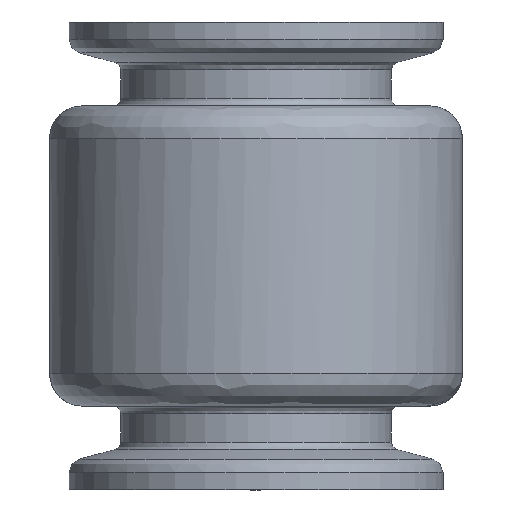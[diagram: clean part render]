
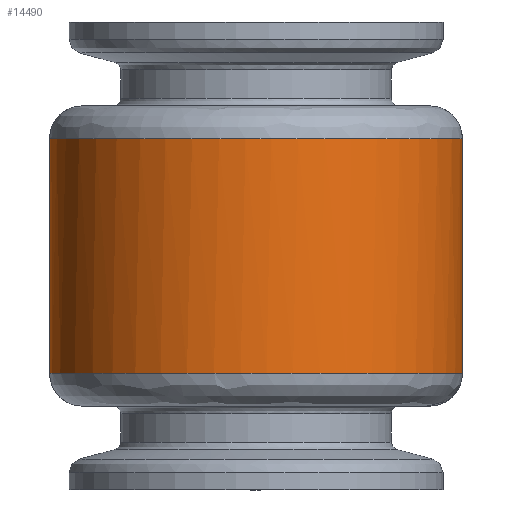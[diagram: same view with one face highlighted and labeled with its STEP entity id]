
A CAD part, front view. The second image highlights one B-rep face of the part: STEP entity #14490.
In plain terms, the highlighted free-form (B-spline) face has degree [2, 1] with [5, 2] control points.
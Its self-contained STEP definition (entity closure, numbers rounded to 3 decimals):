
#11141=CARTESIAN_POINT('V116',(-12.5,0.,
   22.));
#11142=VERTEX_POINT('V116',#11141);
#11221=CARTESIAN_POINT('V114',(-12.5,0.,
   -22.));
#11222=VERTEX_POINT('V114',#11221);
#11254=CARTESIAN_POINT('E185',(-12.5,0.,
   22.));
#11255=CARTESIAN_POINT('E185',(-12.5,
   -22.,22.));
#11256=CARTESIAN_POINT('E185',(-12.5,
   -22.,0.));
#11257=CARTESIAN_POINT('E185',(-12.5,
   -22.,-22.));
#11258=CARTESIAN_POINT('E185',(-12.5,0.,
   -22.));
#11266=(BOUNDED_CURVE()B_SPLINE_CURVE(2,(#11254,#11255,#11256,
   #11257,#11258),.CIRCULAR_ARC.,.F.,.U.)B_SPLINE_CURVE_WITH_KNOTS(
   (3,2,3),(2.0,7.286,12.571),
   .UNSPECIFIED.)CURVE()GEOMETRIC_REPRESENTATION_ITEM()
   RATIONAL_B_SPLINE_CURVE((1.0,0.707,1.0,
   0.707,1.0))REPRESENTATION_ITEM('E185'));
#11267=EDGE_CURVE('E185',#11142,#11222,#11266,.T.);
#11333=CARTESIAN_POINT('V107',(12.5,0.,
   22.));
#11334=VERTEX_POINT('V107',#11333);
#11413=CARTESIAN_POINT('V104',(12.5,0.,
   -22.0));
#11414=VERTEX_POINT('V104',#11413);
#11428=CARTESIAN_POINT('E169',(12.5,0.,
   -22.));
#11429=CARTESIAN_POINT('E169',(12.5,
   -22.,-22.));
#11430=CARTESIAN_POINT('E169',(12.5,
   -22.,0.));
#11431=CARTESIAN_POINT('E169',(12.5,
   -22.,22.));
#11432=CARTESIAN_POINT('E169',(12.5,0.,
   22.));
#11440=(BOUNDED_CURVE()B_SPLINE_CURVE(2,(#11428,#11429,#11430,
   #11431,#11432),.CIRCULAR_ARC.,.F.,.U.)B_SPLINE_CURVE_WITH_KNOTS(
   (3,2,3),(2.0,7.286,12.571),
   .UNSPECIFIED.)CURVE()GEOMETRIC_REPRESENTATION_ITEM()
   RATIONAL_B_SPLINE_CURVE((1.0,0.707,1.0,
   0.707,1.0))REPRESENTATION_ITEM('E169'));
#11441=EDGE_CURVE('E169',#11414,#11334,#11440,.T.);
#14458=CARTESIAN_POINT('F23',(16.1,0.993,
   -21.978));
#14459=CARTESIAN_POINT('F23',(16.1,-22.,
   -23.016));
#14460=CARTESIAN_POINT('F23',(16.1,-22.,
   0.));
#14461=CARTESIAN_POINT('F23',(16.1,-22.,
   23.016));
#14462=CARTESIAN_POINT('F23',(16.1,0.993,
   21.978));
#14463=CARTESIAN_POINT('F23',(-16.1,0.993,
   -21.978));
#14464=CARTESIAN_POINT('F23',(-16.1,
   -22.,-23.016));
#14465=CARTESIAN_POINT('F23',(-16.1,
   -22.,0.));
#14466=CARTESIAN_POINT('F23',(-16.1,
   -22.,23.016));
#14467=CARTESIAN_POINT('F23',(-16.1,0.993,
   21.978));
#14475=(BOUNDED_SURFACE()B_SPLINE_SURFACE(2,1,((#14458,#14463),(
   #14459,#14464),(#14460,#14465),(#14461,#14466),(#14462,
   #14467)),.CYLINDRICAL_SURF.,.F.,.F.,.U.)
   B_SPLINE_SURFACE_WITH_KNOTS((3,2,3),(2,2),(0.399,
   2.052,3.705),(0.0,1.0),.UNSPECIFIED.)
   GEOMETRIC_REPRESENTATION_ITEM()RATIONAL_B_SPLINE_SURFACE(((
   0.86,0.86),(0.641,
   0.641),(1.0,1.0),(0.641,
   0.641),(0.86,0.86)))
   REPRESENTATION_ITEM('F23')SURFACE());
#14476=ORIENTED_EDGE('F78',*,*,#11267,.F.);
#14477=CARTESIAN_POINT('E65',(12.5,0.,
   22.));
#14478=CARTESIAN_POINT('E65',(-12.5,0.,
   22.));
#14479=B_SPLINE_CURVE_WITH_KNOTS('E65',1,(#14477,#14478),
   .POLYLINE_FORM.,.F.,.U.,(2,2),(0.109,
   0.891),.UNSPECIFIED.);
#14480=EDGE_CURVE('E65',#11334,#11142,#14479,.T.);
#14481=ORIENTED_EDGE('E65',*,*,#14480,.F.);
#14482=ORIENTED_EDGE('E169',*,*,#11441,.F.);
#14483=CARTESIAN_POINT('E3',(-12.5,0.,
   -22.));
#14484=CARTESIAN_POINT('E3',(12.5,0.,
   -22.));
#14485=B_SPLINE_CURVE_WITH_KNOTS('E3',1,(#14483,#14484),
   .POLYLINE_FORM.,.F.,.U.,(2,2),(0.109,
   0.891),.UNSPECIFIED.);
#14486=EDGE_CURVE('E3',#11222,#11414,#14485,.T.);
#14487=ORIENTED_EDGE('E3',*,*,#14486,.F.);
#14488=EDGE_LOOP('F23',(#14476,#14481,#14482,#14487));
#14489=FACE_OUTER_BOUND('F23',#14488,.F.);
#14490=ADVANCED_FACE('F23',(#14489),#14475,.T.);
